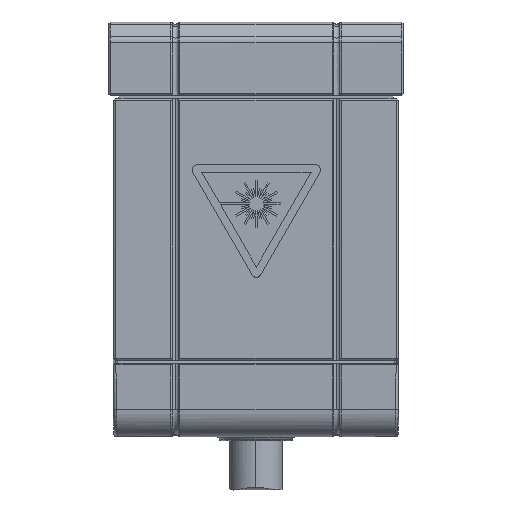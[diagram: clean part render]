
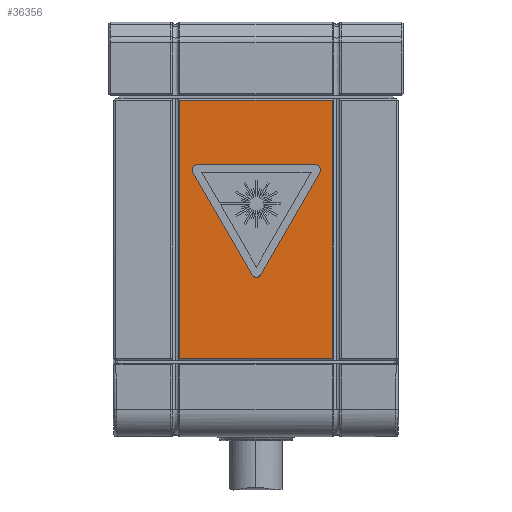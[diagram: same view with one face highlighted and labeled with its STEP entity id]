
A CAD part, left-side view. The second image highlights one B-rep face of the part: STEP entity #36356.
In plain terms, the highlighted planar face has unit normal (-1, 0, 0).
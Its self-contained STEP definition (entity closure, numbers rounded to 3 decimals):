
#657 = VECTOR ( 'NONE', #51277, 1000. ) ;
#1250 = LINE ( 'NONE', #18168, #64164 ) ;
#1488 = CARTESIAN_POINT ( 'NONE',  ( -35., -8.263, -0.5 ) ) ;
#3462 = ORIENTED_EDGE ( 'NONE', *, *, #68281, .F. ) ;
#3556 = B_SPLINE_CURVE_WITH_KNOTS ( 'NONE', 3,
 ( #73022, #72764, #35397, #35128, #47753, #10089, #54029 ),
 .UNSPECIFIED., .F., .F.,
 ( 4, 1, 1, 1, 4 ),
 ( -0.057, 0.214, 0.484, 0.755, 1.025 ),
 .UNSPECIFIED. ) ;
#3572 = CARTESIAN_POINT ( 'NONE',  ( -35., -6.94, -7.769 ) ) ;
#4084 = CARTESIAN_POINT ( 'NONE',  ( -35., 8.263, -0.5 ) ) ;
#5041 = EDGE_CURVE ( 'NONE', #35752, #24993, #27731, .T. ) ;
#5378 = EDGE_CURVE ( 'NONE', #30252, #53627, #52301, .T. ) ;
#5422 = VERTEX_POINT ( 'NONE', #63807 ) ;
#5564 = CARTESIAN_POINT ( 'NONE',  ( -35., -6.575, -7.498 ) ) ;
#6534 = CARTESIAN_POINT ( 'NONE',  ( -35., -8.263, 0.6 ) ) ;
#8914 = CARTESIAN_POINT ( 'NONE',  ( -35., 0.2, -19.68 ) ) ;
#9241 = EDGE_CURVE ( 'NONE', #20475, #12128, #42489, .T. ) ;
#10083 = ORIENTED_EDGE ( 'NONE', *, *, #13903, .T. ) ;
#10089 = CARTESIAN_POINT ( 'NONE',  ( -35., 6.872, -8.285 ) ) ;
#10503 = EDGE_CURVE ( 'NONE', #80211, #35752, #52194, .T. ) ;
#11343 = CARTESIAN_POINT ( 'NONE',  ( -35., -6.916, -7.736 ) ) ;
#11599 = CARTESIAN_POINT ( 'NONE',  ( -35., -6.879, -7.68 ) ) ;
#12128 = VERTEX_POINT ( 'NONE', #72633 ) ;
#12173 = CARTESIAN_POINT ( 'NONE',  ( -35., -0.526, -19.44 ) ) ;
#12716 = CARTESIAN_POINT ( 'NONE',  ( -35., 6.789, -7.68 ) ) ;
#12773 = ORIENTED_EDGE ( 'NONE', *, *, #67980, .F. ) ;
#13379 = CARTESIAN_POINT ( 'NONE',  ( -35., 6.373, -7.489 ) ) ;
#13903 = EDGE_CURVE ( 'NONE', #24902, #80211, #78520, .T. ) ;
#14109 = CARTESIAN_POINT ( 'NONE',  ( -35., 0.414, -19.471 ) ) ;
#14646 = CARTESIAN_POINT ( 'NONE',  ( -35., -0.046, -19.732 ) ) ;
#15146 = ORIENTED_EDGE ( 'NONE', *, *, #5378, .F. ) ;
#18168 = CARTESIAN_POINT ( 'NONE',  ( -35., -6.463, -7.489 ) ) ;
#18188 = DIRECTION ( 'NONE',  ( 0., 1., 0. ) ) ;
#18470 = CARTESIAN_POINT ( 'NONE',  ( -35., 6.415, -7.494 ) ) ;
#19265 = CARTESIAN_POINT ( 'NONE',  ( -35., 6.486, -7.499 ) ) ;
#19345 = CARTESIAN_POINT ( 'NONE',  ( -35., -15.5, -28.505 ) ) ;
#19770 = ORIENTED_EDGE ( 'NONE', *, *, #60972, .F. ) ;
#20475 = VERTEX_POINT ( 'NONE', #29686 ) ;
#21187 = DIRECTION ( 'NONE',  ( 0., 0., -1. ) ) ;
#24551 = CARTESIAN_POINT ( 'NONE',  ( -35., -6.504, -7.494 ) ) ;
#24902 = VERTEX_POINT ( 'NONE', #1488 ) ;
#24993 = VERTEX_POINT ( 'NONE', #66059 ) ;
#25437 = LINE ( 'NONE', #31329, #40170 ) ;
#26228 = EDGE_CURVE ( 'NONE', #5422, #30252, #81576, .T. ) ;
#27301 = CARTESIAN_POINT ( 'NONE',  ( -35., -15.5, -34.4 ) ) ;
#27392 = CARTESIAN_POINT ( 'NONE',  ( -35., 8.263, -28.505 ) ) ;
#27731 = LINE ( 'NONE', #19345, #33638 ) ;
#28603 = CARTESIAN_POINT ( 'NONE',  ( -35., -6.945, -8.322 ) ) ;
#28653 = CARTESIAN_POINT ( 'NONE',  ( -35., -6.94, -7.769 ) ) ;
#29686 = CARTESIAN_POINT ( 'NONE',  ( -35., -6.94, -7.769 ) ) ;
#30252 = VERTEX_POINT ( 'NONE', #77598 ) ;
#30286 = CARTESIAN_POINT ( 'NONE',  ( -35., -6.748, -7.557 ) ) ;
#31329 = CARTESIAN_POINT ( 'NONE',  ( -35., 6.854, -8.323 ) ) ;
#31576 = VECTOR ( 'NONE', #77033, 1000. ) ;
#32274 = VECTOR ( 'NONE', #18188, 1000. ) ;
#33638 = VECTOR ( 'NONE', #44689, 1000. ) ;
#34114 = LINE ( 'NONE', #6534, #657 ) ;
#34205 = ORIENTED_EDGE ( 'NONE', *, *, #55932, .T. ) ;
#34715 = PLANE ( 'NONE',  #36360 ) ;
#35128 = CARTESIAN_POINT ( 'NONE',  ( -35., 6.939, -8.039 ) ) ;
#35397 = CARTESIAN_POINT ( 'NONE',  ( -35., 6.897, -7.865 ) ) ;
#35752 = VERTEX_POINT ( 'NONE', #27392 ) ;
#36356 = ADVANCED_FACE ( 'NONE', ( #66285, #63369 ), #34715, .F. ) ;
#36360 = AXIS2_PLACEMENT_3D ( 'NONE', #27301, #71251, #21187 ) ;
#36780 = ORIENTED_EDGE ( 'NONE', *, *, #53872, .F. ) ;
#37201 = DIRECTION ( 'NONE',  ( 0., 1., 0. ) ) ;
#37385 = CARTESIAN_POINT ( 'NONE',  ( -35., -6.945, -8.322 ) ) ;
#37502 = CARTESIAN_POINT ( 'NONE',  ( -35., 6.659, -7.559 ) ) ;
#40170 = VECTOR ( 'NONE', #44251, 1000. ) ;
#40988 = CARTESIAN_POINT ( 'NONE',  ( -35., -6.962, -8.285 ) ) ;
#41251 = CARTESIAN_POINT ( 'NONE',  ( -35., -7.029, -8.043 ) ) ;
#42427 = B_SPLINE_CURVE_WITH_KNOTS ( 'NONE', 3,
 ( #28603, #40988, #53834, #41251, #46467, #72307, #3572 ),
 .UNSPECIFIED., .F., .F.,
 ( 4, 1, 1, 1, 4 ),
 ( -0.027, 0.243, 0.513, 0.783, 1.053 ),
 .UNSPECIFIED. ) ;
#42489 = B_SPLINE_CURVE_WITH_KNOTS ( 'NONE', 3,
 ( #28653, #11343, #11599, #30286, #5564, #24551, #68233 ),
 .UNSPECIFIED., .F., .F.,
 ( 4, 1, 1, 1, 4 ),
 ( -0.053, 0.217, 0.487, 0.757, 1.027 ),
 .UNSPECIFIED. ) ;
#42888 = ORIENTED_EDGE ( 'NONE', *, *, #74317, .F. ) ;
#44251 = DIRECTION ( 'NONE',  ( 0., -0.5, -0.866 ) ) ;
#44689 = DIRECTION ( 'NONE',  ( 0., -1., 0. ) ) ;
#45483 = CARTESIAN_POINT ( 'NONE',  ( -35., 0.377, -19.528 ) ) ;
#45750 = CARTESIAN_POINT ( 'NONE',  ( -35., -0.526, -19.44 ) ) ;
#46243 = CARTESIAN_POINT ( 'NONE',  ( -35., 6.85, -7.768 ) ) ;
#46467 = CARTESIAN_POINT ( 'NONE',  ( -35., -6.988, -7.865 ) ) ;
#47753 = CARTESIAN_POINT ( 'NONE',  ( -35., 6.904, -8.221 ) ) ;
#49334 = VECTOR ( 'NONE', #68806, 1000. ) ;
#50357 = CARTESIAN_POINT ( 'NONE',  ( -35., 6.373, -7.489 ) ) ;
#51277 = DIRECTION ( 'NONE',  ( 0., 0., 1. ) ) ;
#51877 = VERTEX_POINT ( 'NONE', #79515 ) ;
#52194 = LINE ( 'NONE', #65173, #31576 ) ;
#52301 = LINE ( 'NONE', #12173, #49334 ) ;
#53627 = VERTEX_POINT ( 'NONE', #37385 ) ;
#53834 = CARTESIAN_POINT ( 'NONE',  ( -35., -6.993, -8.221 ) ) ;
#53872 = EDGE_CURVE ( 'NONE', #81037, #51877, #3556, .T. ) ;
#54029 = CARTESIAN_POINT ( 'NONE',  ( -35., 6.854, -8.323 ) ) ;
#55932 = EDGE_CURVE ( 'NONE', #24993, #24902, #34114, .T. ) ;
#56406 = CARTESIAN_POINT ( 'NONE',  ( -35., 6.85, -7.768 ) ) ;
#56689 = CARTESIAN_POINT ( 'NONE',  ( -35., 6.826, -7.736 ) ) ;
#57191 = EDGE_LOOP ( 'NONE', ( #76663, #19770, #36780, #42888, #12773, #71455, #3462, #15146 ) ) ;
#58641 = CARTESIAN_POINT ( 'NONE',  ( -35., -0.467, -19.527 ) ) ;
#60972 = EDGE_CURVE ( 'NONE', #51877, #5422, #25437, .T. ) ;
#61914 = CARTESIAN_POINT ( 'NONE',  ( -35., 8.263, -0.5 ) ) ;
#63369 = FACE_OUTER_BOUND ( 'NONE', #70820, .T. ) ;
#63807 = CARTESIAN_POINT ( 'NONE',  ( -35., 0.437, -19.439 ) ) ;
#64164 = VECTOR ( 'NONE', #37201, 1000. ) ;
#65173 = CARTESIAN_POINT ( 'NONE',  ( -35., 8.263, -34.4 ) ) ;
#66059 = CARTESIAN_POINT ( 'NONE',  ( -35., -8.263, -28.505 ) ) ;
#66285 = FACE_BOUND ( 'NONE', #57191, .T. ) ;
#67980 = EDGE_CURVE ( 'NONE', #12128, #71721, #1250, .T. ) ;
#68233 = CARTESIAN_POINT ( 'NONE',  ( -35., -6.463, -7.489 ) ) ;
#68281 = EDGE_CURVE ( 'NONE', #53627, #20475, #42427, .T. ) ;
#68806 = DIRECTION ( 'NONE',  ( 0., -0.5, 0.866 ) ) ;
#69756 = ORIENTED_EDGE ( 'NONE', *, *, #5041, .T. ) ;
#70733 = CARTESIAN_POINT ( 'NONE',  ( -35., 0.437, -19.439 ) ) ;
#70820 = EDGE_LOOP ( 'NONE', ( #73558, #69756, #34205, #10083 ) ) ;
#71004 = CARTESIAN_POINT ( 'NONE',  ( -35., -0.291, -19.678 ) ) ;
#71251 = DIRECTION ( 'NONE',  ( 1., 0., 0. ) ) ;
#71455 = ORIENTED_EDGE ( 'NONE', *, *, #9241, .F. ) ;
#71721 = VERTEX_POINT ( 'NONE', #13379 ) ;
#72307 = CARTESIAN_POINT ( 'NONE',  ( -35., -6.957, -7.805 ) ) ;
#72633 = CARTESIAN_POINT ( 'NONE',  ( -35., -6.463, -7.489 ) ) ;
#72764 = CARTESIAN_POINT ( 'NONE',  ( -35., 6.866, -7.805 ) ) ;
#73022 = CARTESIAN_POINT ( 'NONE',  ( -35., 6.85, -7.768 ) ) ;
#73558 = ORIENTED_EDGE ( 'NONE', *, *, #10503, .T. ) ;
#74317 = EDGE_CURVE ( 'NONE', #71721, #81037, #79596, .T. ) ;
#76663 = ORIENTED_EDGE ( 'NONE', *, *, #26228, .F. ) ;
#77033 = DIRECTION ( 'NONE',  ( 0., 0., -1. ) ) ;
#77598 = CARTESIAN_POINT ( 'NONE',  ( -35., -0.526, -19.44 ) ) ;
#77655 = CARTESIAN_POINT ( 'NONE',  ( -35., -0.503, -19.472 ) ) ;
#78520 = LINE ( 'NONE', #61914, #32274 ) ;
#79515 = CARTESIAN_POINT ( 'NONE',  ( -35., 6.854, -8.323 ) ) ;
#79596 = B_SPLINE_CURVE_WITH_KNOTS ( 'NONE', 3,
 ( #50357, #18470, #19265, #37502, #12716, #56689, #56406 ),
 .UNSPECIFIED., .F., .F.,
 ( 4, 1, 1, 1, 4 ),
 ( -0.028, 0.243, 0.514, 0.786, 1.057 ),
 .UNSPECIFIED. ) ;
#80211 = VERTEX_POINT ( 'NONE', #4084 ) ;
#81037 = VERTEX_POINT ( 'NONE', #46243 ) ;
#81576 = B_SPLINE_CURVE_WITH_KNOTS ( 'NONE', 3,
 ( #70733, #14109, #45483, #8914, #14646, #71004, #58641, #77655, #45750 ),
 .UNSPECIFIED., .F., .F.,
 ( 4, 1, 1, 1, 1, 1, 4 ),
 ( -0.014, 0.115, 0.243, 0.501, 0.758, 0.886, 1.015 ),
 .UNSPECIFIED. ) ;
